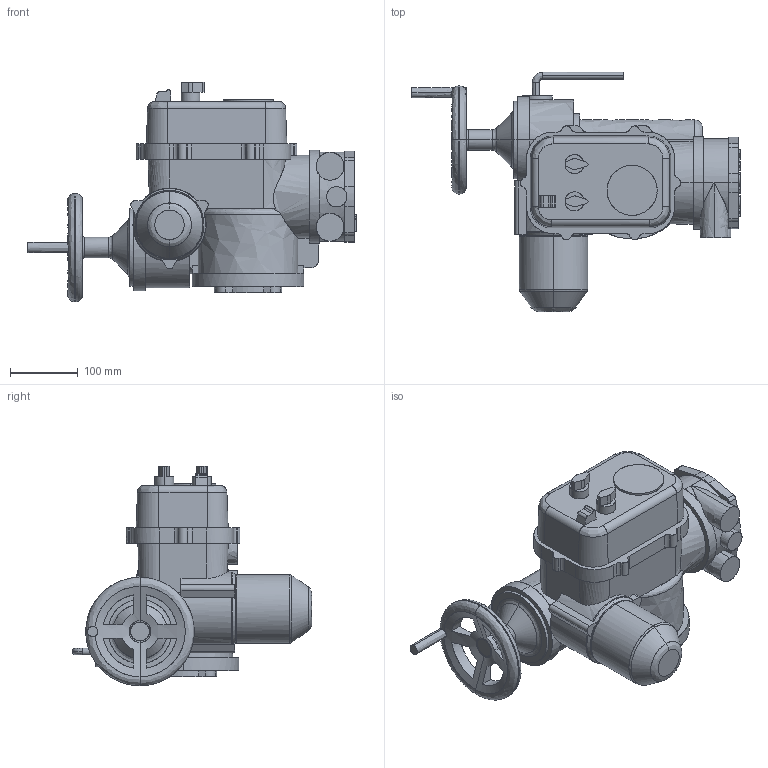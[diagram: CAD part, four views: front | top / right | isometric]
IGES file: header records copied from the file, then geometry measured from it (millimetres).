
Start section: Comment
Global section: file name: Q300PAK+F10-1.igs; native system:  By Spatial Corp.; preprocessor: XPlus PS/IGES 3.0; author: Paul Exton; organization: Rotork Controls Ltd; date: 20030616.141428; units: millimetre
Bounding box: 484.6 x 353.51 x 324 mm (x, y, z)
Surface area: 482434.1 mm2 (no closed solid volume)
Topology: 0 solids, 0 shells, 423 faces, 2396 edges, 2388 vertices
Faces by surface type: bspline 423
